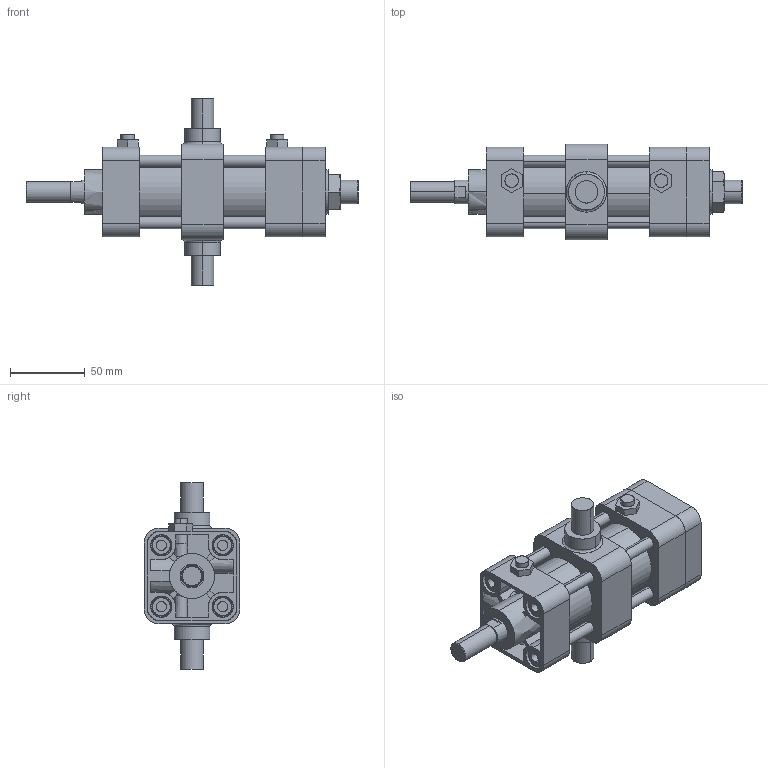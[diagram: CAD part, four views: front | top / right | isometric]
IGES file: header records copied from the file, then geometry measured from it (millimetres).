
Start section: SolidWorks IGES file using analytic representation for surfaces
Global section: file name: C:\Users\Toshiba\Desktop\KGA2-40#-50-T.IGS; native system: SolidWorks 2014; preprocessor: SolidWorks 2014; author: Toshiba; date: 160414.151456; units: millimetre
Bounding box: 222 x 64 x 125 mm (x, y, z)
Surface area: 118497 mm2 (no closed solid volume)
Topology: 0 solids, 0 shells, 434 faces, 6835 edges, 6801 vertices
Faces by surface type: revolution 226, bspline 208
